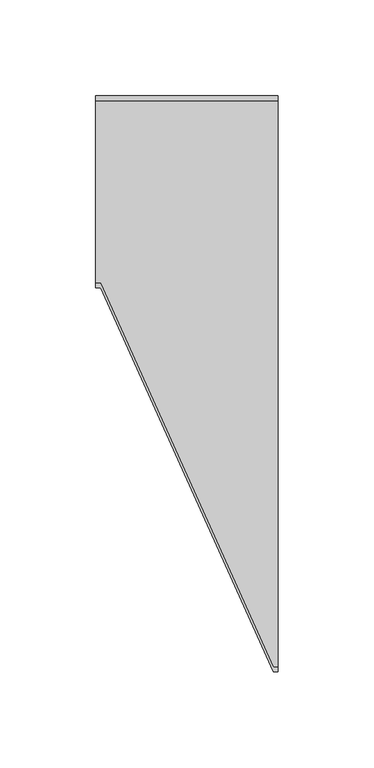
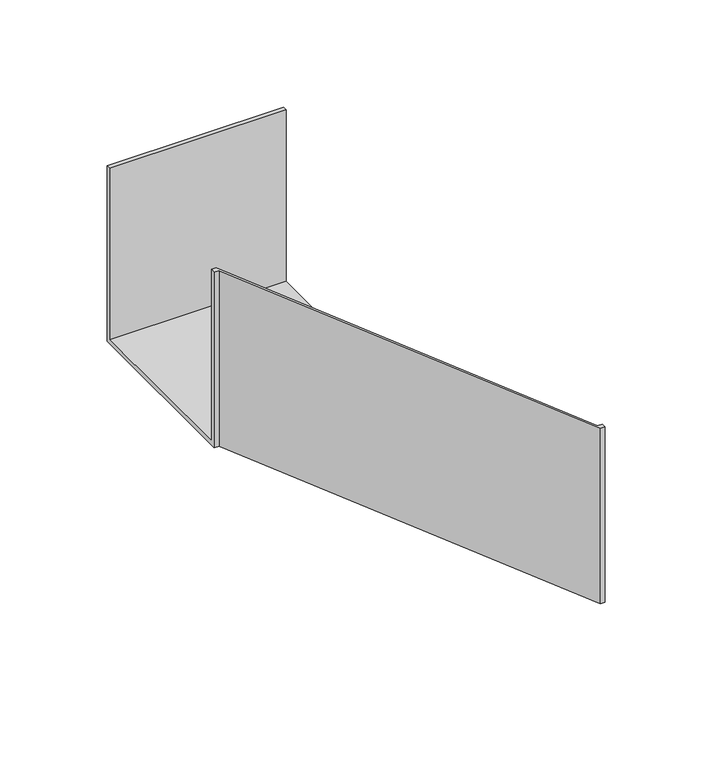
"""IFC4 building model written with IfcOpenShell, lengths in millimetres: cable carrier fitting geometry, BAKS_Reducer : RK(S/L/P)J_H100."""

import ifcopenshell
import ifcopenshell.guid

model = None  # the IFC model being written
_history = None  # IfcOwnerHistory: only IFC2X3 demands one
_inside = {}  # id of a spatial element -> (the spatial element, [elements in it])
_under = {}  # id of a project, library or spatial element -> (it, [spatial elements below it])
_declared = {}  # id of a project -> (the project, [libraries it declares])
_typed = {}  # id of a type object -> (the type object, [elements of that type])
_made_of = {}  # id of a material, layer set ... -> (it, [elements and type objects made of it])


def new_model(schema):
    """Start an empty IFC model of exactly this schema.

    Asked for "IFC4X3", IfcOpenShell would pick the latest addendum, in which some entities
    have other attributes; the version numbers below select the first issue.
    IFC2X3 requires an IfcOwnerHistory on every rooted entity: one is made here for all.
    """
    global model, _history
    if schema == "IFC4X3":
        model = ifcopenshell.file(schema_version=(4, 3, 0, 0))
    else:
        model = ifcopenshell.file(schema=schema)
    _inside.clear()
    _under.clear()
    _declared.clear()
    _typed.clear()
    _made_of.clear()
    _history = None
    if model.schema == "IFC2X3":
        org = make("IfcOrganization", Name="unknown")
        user = make(
            "IfcPersonAndOrganization",
            ThePerson=make("IfcPerson", FamilyName="unknown"),
            TheOrganization=org,
        )
        app = make(
            "IfcApplication",
            ApplicationDeveloper=org,
            Version="unknown",
            ApplicationFullName="unknown",
            ApplicationIdentifier="unknown",
        )
        _history = make(
            "IfcOwnerHistory",
            OwningUser=user,
            OwningApplication=app,
            ChangeAction="ADDED",
            CreationDate=0,
        )
    return model


def make(cls, **values):
    """One entity of the class cls with the attributes given. An attribute that is None is left unset."""
    return model.create_entity(
        cls, **{name: value for name, value in values.items() if value is not None}
    )


def rooted(cls, **values):
    """An entity with a GlobalId (a new one), such as an element, a storey or a relation."""
    return make(cls, GlobalId=ifcopenshell.guid.new(), OwnerHistory=_history, **values)


def si_unit(unit_type, name, prefix=None):
    """IfcSIUnit, for example si_unit("LENGTHUNIT", "METRE", prefix="MILLI")."""
    return make("IfcSIUnit", UnitType=unit_type, Prefix=prefix, Name=name)


def assignment(units):
    """IfcUnitAssignment: the units of a project."""
    return None if units is None else make("IfcUnitAssignment", Units=units)


def point(xyz):
    """IfcCartesianPoint."""
    return None if xyz is None else make("IfcCartesianPoint", Coordinates=xyz)


def direction(xyz):
    """IfcDirection."""
    return None if xyz is None else make("IfcDirection", DirectionRatios=xyz)


def frame(location, z_axis=None, x_axis=None):
    """IfcAxis2Placement3D, a coordinate frame: its origin and axes. An axis left out is left unset."""
    return make(
        "IfcAxis2Placement3D",
        Location=point(location),
        Axis=direction(z_axis),
        RefDirection=direction(x_axis),
    )


def origin():
    """The frame at (0, 0, 0) with its axes left unset."""
    return frame((0.0, 0.0, 0.0))


def place(relative_to, where):
    """IfcLocalPlacement: puts the frame where relative to a parent placement (None: the world)."""
    return make(
        "IfcLocalPlacement", PlacementRelTo=relative_to, RelativePlacement=where
    )


def context(
    kind, dimensions, precision=None, world=None, true_north=None, identifier=None
):
    """IfcGeometricRepresentationContext, for example the 3D "Model" context."""
    return make(
        "IfcGeometricRepresentationContext",
        ContextIdentifier=identifier,
        ContextType=kind,
        CoordinateSpaceDimension=dimensions,
        Precision=precision,
        WorldCoordinateSystem=world,
        TrueNorth=true_north,
    )


def project(units=None, contexts=None):
    """IfcProject with its units and contexts."""
    return rooted(
        "IfcProject",
        Name="project",
        RepresentationContexts=contexts,
        UnitsInContext=assignment(units),
    )


def spatial(cls, under=None, at=None, **own):
    """A site, building, storey or space (cls), placed at a placement, below another one or the project."""
    s = rooted(cls, ObjectPlacement=at, **own)
    if under is not None:
        _under.setdefault(under.id(), (under, []))[1].append(s)
    return s


def faces_of(points, faces, orient=None, outer=None):
    """IfcFace entities. A face is a list of loops; a loop is a list of indices into points, from 0.

    orient and outer hold one flag for each loop. By default every Orientation is true, the
    first loop of a face is its IfcFaceOuterBound and the others are IfcFaceBound.
    """
    made = []
    for i, loops in enumerate(faces):
        bounds = []
        for j, loop in enumerate(loops):
            is_outer = j == 0 if outer is None else outer[i][j]
            bounds.append(
                make(
                    "IfcFaceOuterBound" if is_outer else "IfcFaceBound",
                    Bound=make("IfcPolyLoop", Polygon=[points[k] for k in loop]),
                    Orientation=True if orient is None else orient[i][j],
                )
            )
        made.append(make("IfcFace", Bounds=bounds))
    return made


def faceted_brep(points, faces, orient=None, outer=None, voids=None):
    """IfcFacetedBrep: a solid bounded by flat faces; with voids (closed shells), ...WithVoids."""
    shared = [point(p) for p in points]
    hull = make("IfcClosedShell", CfsFaces=faces_of(shared, faces, orient, outer))
    if voids is None:
        return make("IfcFacetedBrep", Outer=hull)
    return make(
        "IfcFacetedBrepWithVoids",
        Outer=hull,
        Voids=[
            make(cls, CfsFaces=faces_of(shared, fs, o, b)) for cls, fs, o, b in voids
        ],
    )


def shape(context_of_items, identifier, shape_type, items):
    """IfcShapeRepresentation: the items that make up one representation, for example the "Body"."""
    return make(
        "IfcShapeRepresentation",
        ContextOfItems=context_of_items,
        RepresentationIdentifier=identifier,
        RepresentationType=shape_type,
        Items=items,
    )


def source(mapping_origin, context_of_items, identifier, shape_type, items):
    """IfcRepresentationMap: a shape defined once, which mapped items show again and again."""
    return make(
        "IfcRepresentationMap",
        MappingOrigin=mapping_origin,
        MappedRepresentation=shape(context_of_items, identifier, shape_type, items),
    )


def transform(
    local_origin,
    x_axis=None,
    y_axis=None,
    z_axis=None,
    scale=None,
    scale2=None,
    scale3=None,
    uniform=True,
):
    """IfcCartesianTransformationOperator3D, or its non-uniform kind. x_axis, y_axis, z_axis: its Axis1, 2, 3."""
    if uniform:
        return make(
            "IfcCartesianTransformationOperator3D",
            Axis1=direction(x_axis),
            Axis2=direction(y_axis),
            LocalOrigin=point(local_origin),
            Scale=scale,
            Axis3=direction(z_axis),
        )
    return make(
        "IfcCartesianTransformationOperator3DnonUniform",
        Axis1=direction(x_axis),
        Axis2=direction(y_axis),
        LocalOrigin=point(local_origin),
        Scale=scale,
        Axis3=direction(z_axis),
        Scale2=scale2,
        Scale3=scale3,
    )


def mapped(mapping_source, mapping_target):
    """IfcMappedItem: shows the shape of a source again, moved by a transform."""
    return make(
        "IfcMappedItem", MappingSource=mapping_source, MappingTarget=mapping_target
    )


def made_of(thing, what):
    """Note that an element or type object is made of a material, layer set ...; save() writes the relation."""
    if what is not None:
        _made_of.setdefault(what.id(), (what, []))[1].append(thing)
    return thing


def element(
    cls,
    number,
    at=None,
    inside=None,
    cuts=None,
    type_object=None,
    material=None,
    context=None,
    identifier="Body",
    shape_type=None,
    held_by="IfcProductDefinitionShape",
    body=None,
    shapes=None,
    **own,
):
    """One element of the class cls, such as IfcWall. Its Tag is "e" and its number.

    at: its placement. inside: the storey or other place that contains it. cuts: it is an
    opening in that element (IfcRelVoidsElement). A single representation is given by context,
    identifier, shape_type and body (its items); several are given by shapes. held_by: the class
    of the entity that holds the representations. save() writes the other relations.
    """
    e = rooted(cls, Tag="e%d" % number, ObjectPlacement=at, **own)
    if body is not None:
        shapes = [shape(context, identifier, shape_type, body)]
    if shapes is not None:
        e.Representation = make(held_by, Representations=shapes)
    if inside is not None:
        _inside.setdefault(inside.id(), (inside, []))[1].append(e)
    if cuts is not None:
        rooted(
            "IfcRelVoidsElement", RelatingBuildingElement=cuts, RelatedOpeningElement=e
        )
    if type_object is not None:
        _typed.setdefault(type_object.id(), (type_object, []))[1].append(e)
    return made_of(e, material)


def aggregate(whole, parts):
    """IfcRelAggregates: a whole, such as a stair, and the parts it consists of."""
    return rooted("IfcRelAggregates", RelatingObject=whole, RelatedObjects=parts)


def save(model, path):
    """Write the relations noted so far, then the file.

    IfcRelAggregates (storeys below a building ...), IfcRelContainedInSpatialStructure (elements
    in a storey), IfcRelDefinesByType, IfcRelAssociatesMaterial and IfcRelDeclares: one each for
    every whole, place, type object, material and project.
    """
    for whole, parts in _under.values():
        aggregate(whole, parts)
    for where, things in _inside.values():
        rooted(
            "IfcRelContainedInSpatialStructure",
            RelatedElements=things,
            RelatingStructure=where,
        )
    for kind, things in _typed.values():
        rooted("IfcRelDefinesByType", RelatedObjects=things, RelatingType=kind)
    for what, things in _made_of.values():
        rooted("IfcRelAssociatesMaterial", RelatedObjects=things, RelatingMaterial=what)
    for by, libraries in _declared.values():
        rooted("IfcRelDeclares", RelatingContext=by, RelatedDefinitions=libraries)
    model.write(path)


def cable_carrier_fitting_e69bf5bc(model_context):
    return source(origin(), model_context, "Body", "Brep", [
        faceted_brep([(0.0, -50.0, -50.0), (0.0, -50.0, 50.0), (0.0, -47.46, 50.0), (0.0, -47.46, -47.46), (0.0, 47.46, -47.46), (0.0, 47.46, 50.0), (0.0, 50.0, 50.0), (0.0, 50.0, -50.0), (95.0, -250.0, -50.0), (95.0, 50.0, -50.0), (95.0, 50.0, 50.0), (95.0, 47.46, 50.0), (95.0, 47.46, -47.46), (95.0, -247.46, -47.46), (95.0, -247.46, 50.0), (95.0, -250.0, 50.0), (2.5, -50.0, -50.0), (2.5, -50.0, 50.0), (92.5, -250.0, 50.0), (92.5, -247.46, 50.0), (2.5, -47.46, 50.0), (2.5, -47.46, -47.46), (92.5, -247.46, -47.46), (92.5, -250.0, -50.0)], [[[0, 1, 2, 3, 4, 5, 6, 7]], [[8, 9, 10, 11, 12, 13, 14, 15]], [[1, 0, 16, 17]], [[2, 1, 17, 18, 15, 14, 19, 20]], [[3, 2, 20, 21]], [[4, 3, 21, 22, 13, 12]], [[5, 4, 12, 11]], [[6, 5, 11, 10]], [[7, 6, 10, 9]], [[0, 7, 9, 8, 23, 16]], [[8, 15, 18, 23]], [[14, 13, 22, 19]], [[22, 21, 20, 19]], [[16, 23, 18, 17]]]),
    ])


if __name__ == "__main__":
    model = new_model("IFC4")
    model_context = context("Model", 3, world=origin())
    ifc_project = project(units=[si_unit("LENGTHUNIT", "METRE", prefix="MILLI")], contexts=[model_context])
    site = spatial("IfcSite", under=ifc_project)
    building = spatial("IfcBuilding", under=site)
    placement = place(None, origin())
    cable_carrier_fitting_shape = cable_carrier_fitting_e69bf5bc(model_context)
    element("IfcCableCarrierFitting", 1, ObjectType="BAKS_Reducer : RK(S/L/P)J_H100", at=placement, inside=building, context=model_context, shape_type="MappedRepresentation", body=[
        mapped(cable_carrier_fitting_shape, transform((0.0, 0.0, 0.0), x_axis=(1.0, 0.0, 0.0), y_axis=(0.0, 1.0, 0.0), z_axis=(0.0, 0.0, 1.0))),
    ])
    save(model, "model.ifc")
